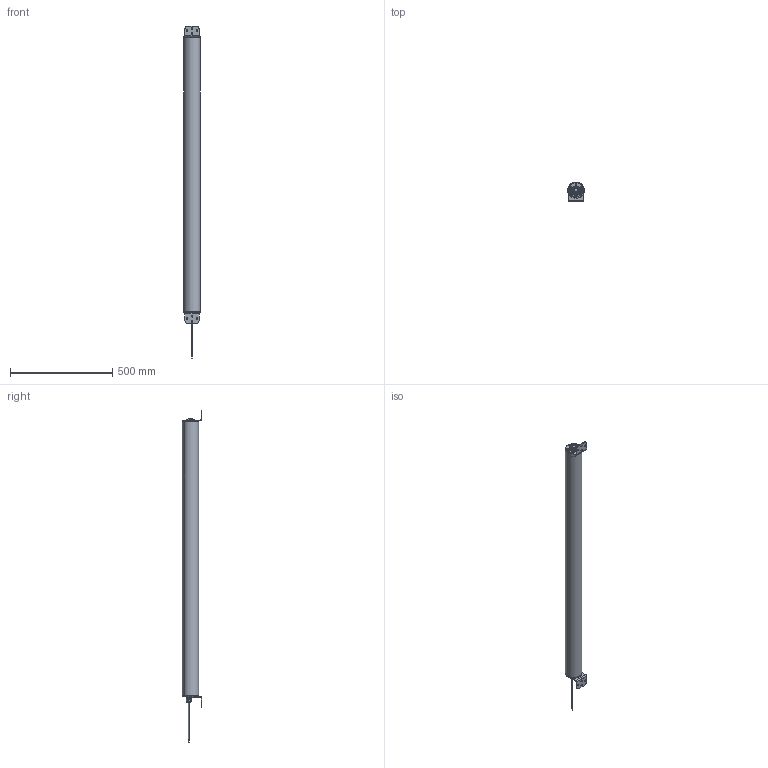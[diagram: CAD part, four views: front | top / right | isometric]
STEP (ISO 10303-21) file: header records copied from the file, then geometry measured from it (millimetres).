
FILE_DESCRIPTION (( 'STEP AP203' ), '1' );
FILE_NAME ('LB9x903.STEP', '2024-08-28T14:04:47', ( '' ), ( '' ), 'SwSTEP 2.0', 'SolidWorks 2021', '' );
FILE_SCHEMA (( 'CONFIG_CONTROL_DESIGN' ));
Length unit declared in the file: millimetre
Products named in the file (7): IP69K enclosure adjust_1250; LB9x903; 000039_M5x10_1_2; Cable M12 femelle_1_2; 006266-C; 000715_1_2; IP69K adjust model_1250
Assembly tree (10 placements, depth 2):
  LB9x903
    IP69K adjust model_1250
    IP69K enclosure adjust_1250
    000039_M5x10_1_2  x4
    000715_1_2
    Cable M12 femelle_1_2
    006266-C  x2
Bounding box: 80 x 95 x 1625.7 mm (x, y, z)
Volume: 3532343.8 mm3; surface area: 1032489.5 mm2
Topology: 12 solids, 12 shells, 1217 faces, 3221 edges, 2095 vertices
Faces by surface type: plane 665, cylinder 366, bspline 116, cone 64, sphere 4, torus 2
Entity records: 40346 total; most frequent: CARTESIAN_POINT 12096, ORIENTED_EDGE 5898, DIRECTION 5512, EDGE_CURVE 2949, VERTEX_POINT 1930, AXIS2_PLACEMENT_3D 1859, VECTOR 1794, LINE 1794
